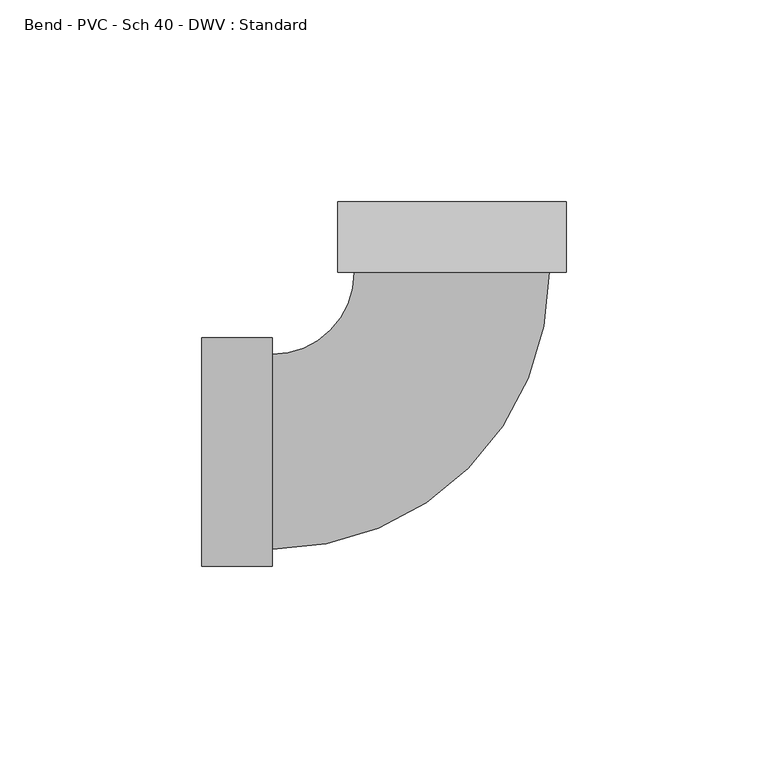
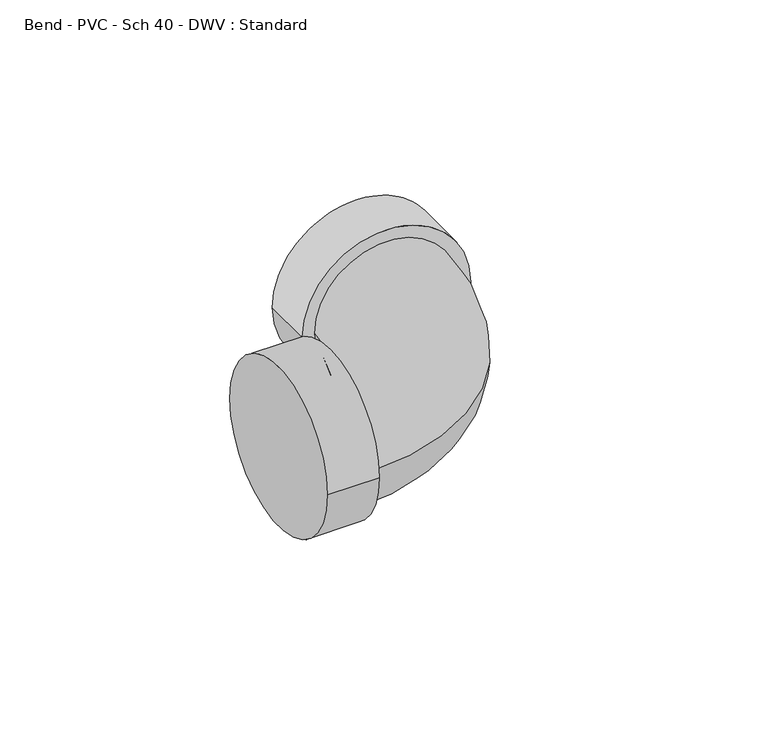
"""IFC4 building model written with IfcOpenShell, lengths in millimetres: pipe fitting geometry, Bend - PVC - Sch 40 - DWV : Standard."""

from ifc_helpers import new_model, si_unit, point, frame, origin, place, context, project, spatial, circle_curve, ellipse_curve, trimmed, source, transform, mapped, element, save
from ifc_brep_helpers import plane_surface, cylinder_surface, revolved_surface, advanced_brep


def bend_pvc_sch_40_dwv_standard_230d167c(model_context):
    return source(origin(), model_context, "Body", "AdvancedBrep", [
        advanced_brep(
        [(-61.8998, -28.2829, 0.0), (-61.8998, 28.2829, 0.0), (-44.45, -28.2829, 0.0), (-44.45, 28.2829, 0.0), (-44.45, -24.13, 0.0), (-44.45, 24.13, 0.0), (-24.1299984, 44.4500009, 0.0), (24.1300016, 44.4499991, 0.0), (28.2829016, 44.449999, 0.0), (-28.2828984, 44.450001, 0.0), (28.2829022, 61.899799, 0.0), (-28.2828978, 61.899801, 0.0)],
        [
            (0, 1, circle_curve(frame((-61.8998, 0.0, 0.0), z_axis=(-1.0, 0.0, 0.0), x_axis=(0.0, 1.0, 0.0)), 28.2829)),
            (1, 0, circle_curve(frame((-61.8998, 0.0, 0.0), z_axis=(-1.0, 0.0, 0.0), x_axis=(0.0, 1.0, 0.0)), 28.2829)),
            (2, 3, circle_curve(frame((-44.45, 0.0, 0.0), z_axis=(1.0, 0.0, 0.0), x_axis=(0.0, 1.0, 0.0)), 28.2829)),
            (3, 2, circle_curve(frame((-44.45, 0.0, 0.0), z_axis=(1.0, 0.0, 0.0), x_axis=(0.0, 1.0, 0.0)), 28.2829)),
            (4, 5, circle_curve(frame((-44.45, 0.0, 0.0), z_axis=(-1.0, 0.0, 0.0), x_axis=(0.0, 1.0, 0.0)), 24.13)),
            (5, 4, circle_curve(frame((-44.45, 0.0, 0.0), z_axis=(-1.0, 0.0, 0.0), x_axis=(0.0, 1.0, 0.0)), 24.13)),
            (0, 2),
            (3, 1),
            (6, 5, circle_curve(frame((-44.45, 44.4500016, 0.0), z_axis=(0.0, 0.0, -1.0), x_axis=(0.0, -1.0, 0.0)), 20.3200016)),
            (4, 7, circle_curve(frame((-44.45, 44.4500016, 0.0), z_axis=(0.0, 0.0, 1.0), x_axis=(0.0, -1.0, 0.0)), 68.5800016)),
            (7, 6, circle_curve(frame((1.6e-06, 44.45, 0.0), z_axis=(-3.621727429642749e-08, -0.9999999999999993, 0.0), x_axis=(-0.9999999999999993, 3.621727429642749e-08, 0.0)), 24.13)),
            (6, 7, circle_curve(frame((1.6e-06, 44.45, 0.0), z_axis=(-3.621727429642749e-08, -0.9999999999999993, 0.0), x_axis=(-0.9999999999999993, 3.621727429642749e-08, 0.0)), 24.13)),
            (8, 9, circle_curve(frame((1.6e-06, 44.45, 0.0), z_axis=(-3.62172756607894e-08, -0.9999999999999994, 0.0), x_axis=(-0.9999999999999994, 3.62172756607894e-08, 0.0)), 28.2829)),
            (9, 8, circle_curve(frame((1.6e-06, 44.45, 0.0), z_axis=(-3.62172756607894e-08, -0.9999999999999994, 0.0), x_axis=(-0.9999999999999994, 3.62172756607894e-08, 0.0)), 28.2829)),
            (10, 11, circle_curve(frame((2.2e-06, 61.8998, 0.0), z_axis=(3.62172756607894e-08, 0.9999999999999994, 0.0), x_axis=(-0.9999999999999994, 3.62172756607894e-08, 0.0)), 28.2829)),
            (11, 10, circle_curve(frame((2.2e-06, 61.8998, 0.0), z_axis=(3.62172756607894e-08, 0.9999999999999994, 0.0), x_axis=(-0.9999999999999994, 3.62172756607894e-08, 0.0)), 28.2829)),
            (8, 10),
            (11, 9),
        ],
        [
            plane_surface(frame((-61.8998, 0.0, 0.0), z_axis=(-1.0, 0.0, 0.0), x_axis=(0.0, 0.0, 1.0))),
            plane_surface(frame((-44.45, 0.0, 0.0), z_axis=(1.0, 0.0, 0.0), x_axis=(0.0, 0.0, 1.0))),
            cylinder_surface(frame((-61.8998, 0.0, 0.0), z_axis=(-1.0, 0.0, 0.0), x_axis=(0.0, 1.0, 0.0)), 28.2829),
            revolved_surface(trimmed(ellipse_curve(frame((-44.45, 0.0, 0.0), z_axis=(-1.0, 0.0, 0.0), x_axis=(0.0, 1.0, 0.0)), 24.13, 24.13), [point((-44.45, -24.13, 0.0))], [point((-44.45, 24.13, 0.0))], True, "CARTESIAN"), (-44.45, 44.4500016, 0.0), (0.0, 0.0, 1.0)),
            revolved_surface(trimmed(ellipse_curve(frame((-44.45, 0.0, 0.0), z_axis=(-1.0, 0.0, 0.0), x_axis=(0.0, 1.0, 0.0)), 24.13, 24.13), [point((-44.45, 24.13, 0.0))], [point((-44.45, -24.13, 0.0))], True, "CARTESIAN"), (-44.45, 44.4500016, 0.0), (0.0, 0.0, 1.0)),
            plane_surface(frame((1.6e-06, 44.45, 0.0), z_axis=(-3.62172756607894e-08, -0.9999999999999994, 0.0), x_axis=(0.0, 0.0, 1.0))),
            plane_surface(frame((2.2e-06, 61.8998, 0.0), z_axis=(3.62172756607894e-08, 0.9999999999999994, 0.0), x_axis=(0.0, 0.0, 1.0))),
            cylinder_surface(frame((1.6e-06, 44.45, 0.0), z_axis=(-3.62172756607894e-08, -0.9999999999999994, 0.0), x_axis=(-0.9999999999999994, 3.62172756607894e-08, 0.0)), 28.2829),
        ],
        [
            (0, [[1, 2]]),
            (1, [[3, 4], [5, 6]]),
            (2, [[-1, 7, -4, 8]]),
            (2, [[-2, -8, -3, -7]]),
            (3, [[9, -5, 10, 11]]),
            (4, [[-9, 12, -10, -6]]),
            (5, [[13, 14], [-11, -12]]),
            (6, [[15, 16]]),
            (7, [[-13, 17, -16, 18]]),
            (7, [[-14, -18, -15, -17]]),
        ],
    ),
    ])


if __name__ == "__main__":
    model = new_model("IFC4")
    model_context = context("Model", 3, world=origin())
    ifc_project = project(units=[si_unit("LENGTHUNIT", "METRE", prefix="MILLI")], contexts=[model_context])
    site = spatial("IfcSite", under=ifc_project)
    building = spatial("IfcBuilding", under=site)
    placement = place(None, origin())
    bend_pvc_sch_40_dwv_standard_shape = bend_pvc_sch_40_dwv_standard_230d167c(model_context)
    element("IfcPipeFitting", 1, ObjectType="Bend - PVC - Sch 40 - DWV : Standard", at=placement, inside=building, context=model_context, shape_type="MappedRepresentation", body=[
        mapped(bend_pvc_sch_40_dwv_standard_shape, transform((0.0, 0.0, 0.0), x_axis=(1.0, 0.0, 0.0), y_axis=(0.0, 1.0, 0.0), z_axis=(0.0, 0.0, 1.0))),
    ])
    save(model, "model.ifc")
